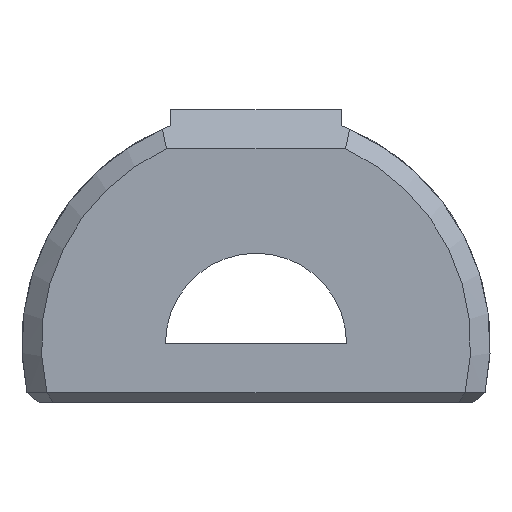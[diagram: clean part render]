
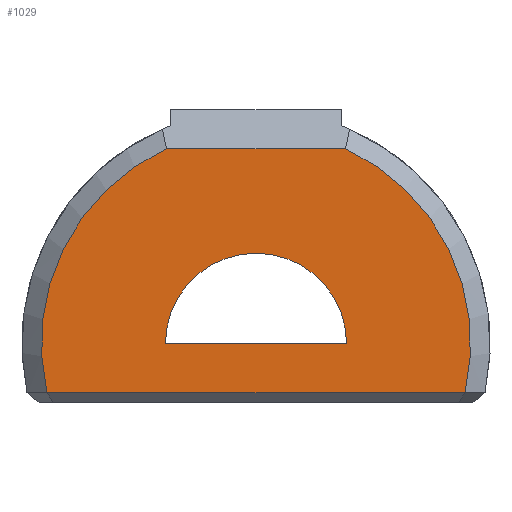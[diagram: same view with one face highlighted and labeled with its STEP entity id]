
A CAD part, front view. The second image highlights one B-rep face of the part: STEP entity #1029.
In plain terms, the highlighted planar face has unit normal (0, -1, 0).
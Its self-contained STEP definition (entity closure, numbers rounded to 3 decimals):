
#28=FACE_BOUND('',#362,.T.);
#46=CIRCLE('',#1120,10.985);
#47=CIRCLE('',#1122,10.985);
#48=CIRCLE('',#1123,4.635);
#84=LINE('',#1535,#162);
#134=LINE('',#1890,#212);
#140=LINE('',#1915,#218);
#162=VECTOR('',#1159,10.);
#212=VECTOR('',#1313,10.);
#218=VECTOR('',#1339,10.);
#256=PLANE('',#1121);
#305=FACE_OUTER_BOUND('',#361,.T.);
#361=EDGE_LOOP('',(#900,#901,#902,#903));
#362=EDGE_LOOP('',(#904,#905));
#431=VERTEX_POINT('',#1533);
#432=VERTEX_POINT('',#1534);
#500=VERTEX_POINT('',#1885);
#501=VERTEX_POINT('',#1889);
#506=VERTEX_POINT('',#1912);
#507=VERTEX_POINT('',#1913);
#536=EDGE_CURVE('',#431,#432,#84,.T.);
#639=EDGE_CURVE('',#500,#501,#134,.T.);
#649=EDGE_CURVE('',#501,#431,#46,.T.);
#650=EDGE_CURVE('',#432,#500,#47,.T.);
#651=EDGE_CURVE('',#506,#507,#48,.T.);
#652=EDGE_CURVE('',#507,#506,#140,.T.);
#900=ORIENTED_EDGE('',*,*,#536,.F.);
#901=ORIENTED_EDGE('',*,*,#649,.F.);
#902=ORIENTED_EDGE('',*,*,#639,.F.);
#903=ORIENTED_EDGE('',*,*,#650,.F.);
#904=ORIENTED_EDGE('',*,*,#651,.T.);
#905=ORIENTED_EDGE('',*,*,#652,.T.);
#1029=ADVANCED_FACE('',(#305,#28),#256,.T.);
#1120=AXIS2_PLACEMENT_3D('',#1909,#1331,#1332);
#1121=AXIS2_PLACEMENT_3D('',#1910,#1333,#1334);
#1122=AXIS2_PLACEMENT_3D('',#1911,#1335,#1336);
#1123=AXIS2_PLACEMENT_3D('',#1914,#1337,#1338);
#1159=DIRECTION('',(-1.,0.,0.));
#1313=DIRECTION('',(1.,0.,0.));
#1331=DIRECTION('center_axis',(0.,1.,0.));
#1332=DIRECTION('ref_axis',(1.,0.,0.));
#1333=DIRECTION('center_axis',(0.,-1.,0.));
#1334=DIRECTION('ref_axis',(0.,0.,-1.));
#1335=DIRECTION('center_axis',(0.,1.,0.));
#1336=DIRECTION('ref_axis',(1.,0.,0.));
#1337=DIRECTION('center_axis',(0.,1.,0.));
#1338=DIRECTION('ref_axis',(1.,0.,0.));
#1339=DIRECTION('',(-1.,0.,0.));
#1533=CARTESIAN_POINT('',(10.696,-35.1,-2.5));
#1534=CARTESIAN_POINT('',(-10.696,-35.1,-2.5));
#1535=CARTESIAN_POINT('',(5.802,-35.1,-2.5));
#1885=CARTESIAN_POINT('',(-4.579,-35.1,9.985));
#1889=CARTESIAN_POINT('',(4.579,-35.1,9.985));
#1890=CARTESIAN_POINT('',(-2.181,-35.1,9.985));
#1909=CARTESIAN_POINT('Origin',(0.,-35.1,0.));
#1910=CARTESIAN_POINT('Origin',(0.,-35.1,4.492));
#1911=CARTESIAN_POINT('Origin',(0.,-35.1,0.));
#1912=CARTESIAN_POINT('',(-4.635,-35.1,0.));
#1913=CARTESIAN_POINT('',(4.635,-35.1,0.));
#1914=CARTESIAN_POINT('Origin',(0.,-35.1,0.));
#1915=CARTESIAN_POINT('',(2.318,-35.1,0.));
